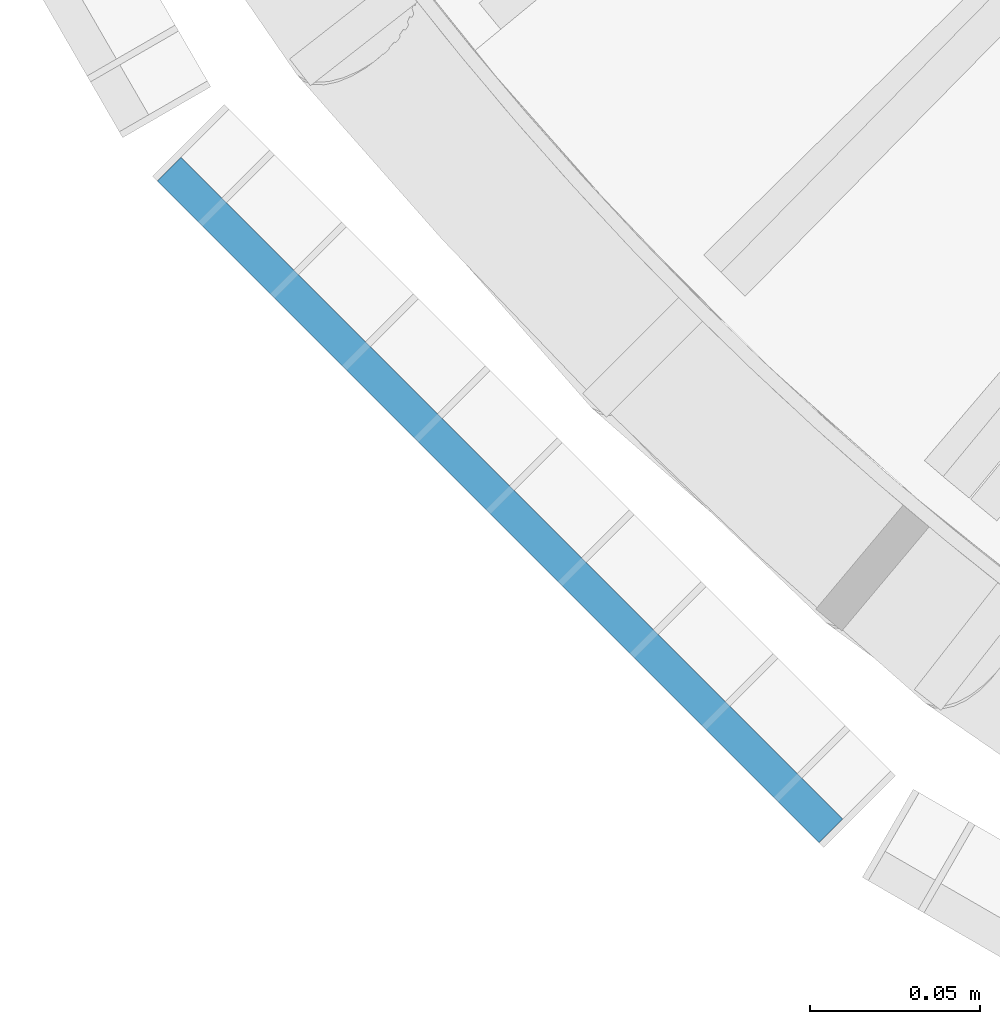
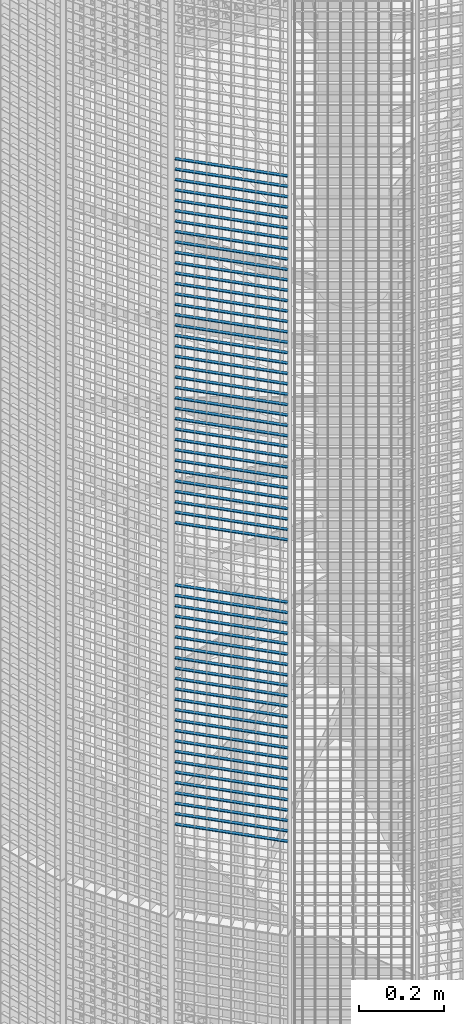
# One storey, part 344 of 1148: 60 beams, 1 element without a shape of its own.
"""IFC2X3 building model written with IfcOpenShell, lengths in millimetres."""

from ifc_helpers import new_model, si_unit, frame, origin_with_axes, origin_2d_with_axis, place, context, subcontext, project, spatial, rectangle, extrude, material, type_object, element, aggregate, save


model = new_model("IFC2X3")

# Units and contexts
model_context = context("Model", 3, precision=1e-05, world=origin_with_axes())
body_context = subcontext(model_context, "Body", "Model", "MODEL_VIEW")
ifc_project = project(units=[si_unit("LENGTHUNIT", "METRE", prefix="MILLI"), si_unit("AREAUNIT", "SQUARE_METRE"), si_unit("VOLUMEUNIT", "CUBIC_METRE"), si_unit("MASSUNIT", "GRAM", prefix="KILO"), si_unit("TIMEUNIT", "SECOND"), si_unit("PLANEANGLEUNIT", "RADIAN"), si_unit("SOLIDANGLEUNIT", "STERADIAN"), si_unit("THERMODYNAMICTEMPERATUREUNIT", "DEGREE_CELSIUS"), si_unit("LUMINOUSINTENSITYUNIT", "LUMEN")], contexts=[model_context])

# Site, building, storey
site_placement = place(None, origin_with_axes())
site = spatial("IfcSite", under=ifc_project, at=site_placement, Name="Undefined", CompositionType="ELEMENT")
building_placement = place(site_placement, origin_with_axes())
building = spatial("IfcBuilding", under=site, at=building_placement, Name="Undefined", CompositionType="ELEMENT")
storey_placement = place(building_placement, origin_with_axes())
storey = spatial("IfcBuildingStorey", under=building, at=storey_placement, Name="Undefined", CompositionType="ELEMENT", Elevation=0.0)

# Assembly, beams
assembly_placement = place(storey_placement, origin_with_axes())
assembly = element("IfcElementAssembly", 1, at=assembly_placement, inside=storey, Name="BORDURE", AssemblyPlace="NOTDEFINED", PredefinedType="NOTDEFINED")
ifc_material = material(Name="STEEL/S235JR")
beam_type = type_object("IfcBeamType", Name="PL2*10", PredefinedType="NOTDEFINED")
beam_1_placement = place(assembly_placement, frame((20910.2286510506, -884.927168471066, 11190.0), z_axis=(-0.70710678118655, -0.707106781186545, 0.0), x_axis=(-0.707106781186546, 0.707106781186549, 0.0)))
beam_1 = element("IfcBeam", 2, at=beam_1_placement, type_object=beam_type, material=ifc_material, Name="ENTRETOISE", context=body_context, shape_type="SweptSolid", body=[
    extrude(rectangle(XDim=2.0, YDim=10.0, at=origin_2d_with_axis()), frame((275.999999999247, 9.09494701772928e-13, 1.53210777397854e-14), z_axis=(-1.0, 0.0, 0.0), x_axis=(0.0, -1.0, 0.0)), (0.0, 0.0, 1.0), 276.0),
])
beam_2_placement = place(assembly_placement, frame((20910.2286510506, -884.927168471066, 11160.0), z_axis=(-0.70710678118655, -0.707106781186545, 0.0), x_axis=(-0.707106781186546, 0.707106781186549, 0.0)))
beam_2 = element("IfcBeam", 3, at=beam_2_placement, type_object=beam_type, material=ifc_material, Name="ENTRETOISE", context=body_context, shape_type="SweptSolid", body=[
    extrude(rectangle(XDim=2.0, YDim=10.0, at=origin_2d_with_axis()), frame((275.999999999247, 9.09494701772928e-13, 1.53210777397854e-14), z_axis=(-1.0, 0.0, 0.0), x_axis=(0.0, -1.0, 0.0)), (0.0, 0.0, 1.0), 276.0),
])
beam_3_placement = place(assembly_placement, frame((20910.2286510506, -884.927168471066, 11130.0), z_axis=(-0.70710678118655, -0.707106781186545, 0.0), x_axis=(-0.707106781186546, 0.707106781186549, 0.0)))
beam_3 = element("IfcBeam", 4, at=beam_3_placement, type_object=beam_type, material=ifc_material, Name="ENTRETOISE", context=body_context, shape_type="SweptSolid", body=[
    extrude(rectangle(XDim=2.0, YDim=10.0, at=origin_2d_with_axis()), frame((275.999999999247, 9.09494701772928e-13, 1.53210777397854e-14), z_axis=(-1.0, 0.0, 0.0), x_axis=(0.0, -1.0, 0.0)), (0.0, 0.0, 1.0), 276.0),
])
beam_4_placement = place(assembly_placement, frame((20910.2286510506, -884.927168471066, 11100.0), z_axis=(-0.70710678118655, -0.707106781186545, 0.0), x_axis=(-0.707106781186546, 0.707106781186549, 0.0)))
beam_4 = element("IfcBeam", 5, at=beam_4_placement, type_object=beam_type, material=ifc_material, Name="ENTRETOISE", context=body_context, shape_type="SweptSolid", body=[
    extrude(rectangle(XDim=2.0, YDim=10.0, at=origin_2d_with_axis()), frame((275.999999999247, 9.09494701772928e-13, 1.53210777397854e-14), z_axis=(-1.0, 0.0, 0.0), x_axis=(0.0, -1.0, 0.0)), (0.0, 0.0, 1.0), 276.0),
])
beam_5_placement = place(assembly_placement, frame((20910.2286510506, -884.927168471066, 11070.0), z_axis=(-0.70710678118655, -0.707106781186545, 0.0), x_axis=(-0.707106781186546, 0.707106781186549, 0.0)))
beam_5 = element("IfcBeam", 6, at=beam_5_placement, type_object=beam_type, material=ifc_material, Name="ENTRETOISE", context=body_context, shape_type="SweptSolid", body=[
    extrude(rectangle(XDim=2.0, YDim=10.0, at=origin_2d_with_axis()), frame((275.999999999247, 9.09494701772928e-13, 1.53210777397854e-14), z_axis=(-1.0, 0.0, 0.0), x_axis=(0.0, -1.0, 0.0)), (0.0, 0.0, 1.0), 276.0),
])
beam_6_placement = place(assembly_placement, frame((20910.2286510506, -884.927168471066, 11040.0), z_axis=(-0.70710678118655, -0.707106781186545, 0.0), x_axis=(-0.707106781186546, 0.707106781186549, 0.0)))
beam_6 = element("IfcBeam", 7, at=beam_6_placement, type_object=beam_type, material=ifc_material, Name="ENTRETOISE", context=body_context, shape_type="SweptSolid", body=[
    extrude(rectangle(XDim=2.0, YDim=10.0, at=origin_2d_with_axis()), frame((275.999999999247, 9.09494701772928e-13, 1.53210777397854e-14), z_axis=(-1.0, 0.0, 0.0), x_axis=(0.0, -1.0, 0.0)), (0.0, 0.0, 1.0), 276.0),
])
beam_7_placement = place(assembly_placement, frame((20910.2286510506, -884.927168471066, 11010.0), z_axis=(-0.70710678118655, -0.707106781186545, 0.0), x_axis=(-0.707106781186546, 0.707106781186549, 0.0)))
beam_7 = element("IfcBeam", 8, at=beam_7_placement, type_object=beam_type, material=ifc_material, Name="ENTRETOISE", context=body_context, shape_type="SweptSolid", body=[
    extrude(rectangle(XDim=2.0, YDim=10.0, at=origin_2d_with_axis()), frame((275.999999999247, 9.09494701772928e-13, 1.53210777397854e-14), z_axis=(-1.0, 0.0, 0.0), x_axis=(0.0, -1.0, 0.0)), (0.0, 0.0, 1.0), 276.0),
])
beam_8_placement = place(assembly_placement, frame((20910.2286510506, -884.927168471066, 10980.0), z_axis=(-0.70710678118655, -0.707106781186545, 0.0), x_axis=(-0.707106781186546, 0.707106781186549, 0.0)))
beam_8 = element("IfcBeam", 9, at=beam_8_placement, type_object=beam_type, material=ifc_material, Name="ENTRETOISE", context=body_context, shape_type="SweptSolid", body=[
    extrude(rectangle(XDim=2.0, YDim=10.0, at=origin_2d_with_axis()), frame((275.999999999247, 9.09494701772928e-13, 1.53210777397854e-14), z_axis=(-1.0, 0.0, 0.0), x_axis=(0.0, -1.0, 0.0)), (0.0, 0.0, 1.0), 276.0),
])
beam_9_placement = place(assembly_placement, frame((20910.2286510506, -884.927168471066, 10950.0), z_axis=(-0.70710678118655, -0.707106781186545, 0.0), x_axis=(-0.707106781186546, 0.707106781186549, 0.0)))
beam_9 = element("IfcBeam", 10, at=beam_9_placement, type_object=beam_type, material=ifc_material, Name="ENTRETOISE", context=body_context, shape_type="SweptSolid", body=[
    extrude(rectangle(XDim=2.0, YDim=10.0, at=origin_2d_with_axis()), frame((275.999999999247, 9.09494701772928e-13, 1.53210777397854e-14), z_axis=(-1.0, 0.0, 0.0), x_axis=(0.0, -1.0, 0.0)), (0.0, 0.0, 1.0), 276.0),
])
beam_10_placement = place(assembly_placement, frame((20910.2286510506, -884.927168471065, 10920.0), z_axis=(-0.70710678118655, -0.707106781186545, 0.0), x_axis=(-0.707106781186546, 0.707106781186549, 0.0)))
beam_10 = element("IfcBeam", 11, at=beam_10_placement, type_object=beam_type, material=ifc_material, Name="ENTRETOISE", context=body_context, shape_type="SweptSolid", body=[
    extrude(rectangle(XDim=2.0, YDim=10.0, at=origin_2d_with_axis()), frame((275.999999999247, 9.09494701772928e-13, 1.53210777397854e-14), z_axis=(-1.0, 0.0, 0.0), x_axis=(0.0, -1.0, 0.0)), (0.0, 0.0, 1.0), 276.0),
])
beam_11_placement = place(assembly_placement, frame((20910.2286510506, -884.927168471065, 10890.0), z_axis=(-0.70710678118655, -0.707106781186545, 0.0), x_axis=(-0.707106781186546, 0.707106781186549, 0.0)))
beam_11 = element("IfcBeam", 12, at=beam_11_placement, type_object=beam_type, material=ifc_material, Name="ENTRETOISE", context=body_context, shape_type="SweptSolid", body=[
    extrude(rectangle(XDim=2.0, YDim=10.0, at=origin_2d_with_axis()), frame((275.999999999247, 9.09494701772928e-13, 1.53210777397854e-14), z_axis=(-1.0, 0.0, 0.0), x_axis=(0.0, -1.0, 0.0)), (0.0, 0.0, 1.0), 276.0),
])
beam_12_placement = place(assembly_placement, frame((20910.2286510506, -884.927168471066, 10860.0), z_axis=(-0.70710678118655, -0.707106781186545, 0.0), x_axis=(-0.707106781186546, 0.707106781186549, 0.0)))
beam_12 = element("IfcBeam", 13, at=beam_12_placement, type_object=beam_type, material=ifc_material, Name="ENTRETOISE", context=body_context, shape_type="SweptSolid", body=[
    extrude(rectangle(XDim=2.0, YDim=10.0, at=origin_2d_with_axis()), frame((275.999999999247, 9.09494701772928e-13, 1.53210777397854e-14), z_axis=(-1.0, 0.0, 0.0), x_axis=(0.0, -1.0, 0.0)), (0.0, 0.0, 1.0), 276.0),
])
beam_13_placement = place(assembly_placement, frame((20910.2286510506, -884.927168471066, 10830.0), z_axis=(-0.70710678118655, -0.707106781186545, 0.0), x_axis=(-0.707106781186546, 0.707106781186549, 0.0)))
beam_13 = element("IfcBeam", 14, at=beam_13_placement, type_object=beam_type, material=ifc_material, Name="ENTRETOISE", context=body_context, shape_type="SweptSolid", body=[
    extrude(rectangle(XDim=2.0, YDim=10.0, at=origin_2d_with_axis()), frame((275.999999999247, 9.09494701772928e-13, 1.53210777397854e-14), z_axis=(-1.0, 0.0, 0.0), x_axis=(0.0, -1.0, 0.0)), (0.0, 0.0, 1.0), 276.0),
])
beam_14_placement = place(assembly_placement, frame((20910.2286510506, -884.927168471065, 10800.0), z_axis=(-0.70710678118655, -0.707106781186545, 0.0), x_axis=(-0.707106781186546, 0.707106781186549, 0.0)))
beam_14 = element("IfcBeam", 15, at=beam_14_placement, type_object=beam_type, material=ifc_material, Name="ENTRETOISE", context=body_context, shape_type="SweptSolid", body=[
    extrude(rectangle(XDim=2.0, YDim=10.0, at=origin_2d_with_axis()), frame((275.999999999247, 9.09494701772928e-13, 1.53210777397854e-14), z_axis=(-1.0, 0.0, 0.0), x_axis=(0.0, -1.0, 0.0)), (0.0, 0.0, 1.0), 276.0),
])
beam_15_placement = place(assembly_placement, frame((20910.2286510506, -884.927168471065, 10770.0), z_axis=(-0.70710678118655, -0.707106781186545, 0.0), x_axis=(-0.707106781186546, 0.707106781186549, 0.0)))
beam_15 = element("IfcBeam", 16, at=beam_15_placement, type_object=beam_type, material=ifc_material, Name="ENTRETOISE", context=body_context, shape_type="SweptSolid", body=[
    extrude(rectangle(XDim=2.0, YDim=10.0, at=origin_2d_with_axis()), frame((275.999999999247, 9.09494701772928e-13, 1.53210777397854e-14), z_axis=(-1.0, 0.0, 0.0), x_axis=(0.0, -1.0, 0.0)), (0.0, 0.0, 1.0), 276.0),
])
beam_16_placement = place(assembly_placement, frame((20910.2286510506, -884.927168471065, 10740.0), z_axis=(-0.70710678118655, -0.707106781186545, 0.0), x_axis=(-0.707106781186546, 0.707106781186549, 0.0)))
beam_16 = element("IfcBeam", 17, at=beam_16_placement, type_object=beam_type, material=ifc_material, Name="ENTRETOISE", context=body_context, shape_type="SweptSolid", body=[
    extrude(rectangle(XDim=2.0, YDim=10.0, at=origin_2d_with_axis()), frame((275.999999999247, 9.09494701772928e-13, 1.53210777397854e-14), z_axis=(-1.0, 0.0, 0.0), x_axis=(0.0, -1.0, 0.0)), (0.0, 0.0, 1.0), 276.0),
])
beam_17_placement = place(assembly_placement, frame((20910.2286510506, -884.927168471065, 10710.0), z_axis=(-0.70710678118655, -0.707106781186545, 0.0), x_axis=(-0.707106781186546, 0.707106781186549, 0.0)))
beam_17 = element("IfcBeam", 18, at=beam_17_placement, type_object=beam_type, material=ifc_material, Name="ENTRETOISE", context=body_context, shape_type="SweptSolid", body=[
    extrude(rectangle(XDim=2.0, YDim=10.0, at=origin_2d_with_axis()), frame((275.999999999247, 9.09494701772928e-13, 1.53210777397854e-14), z_axis=(-1.0, 0.0, 0.0), x_axis=(0.0, -1.0, 0.0)), (0.0, 0.0, 1.0), 276.0),
])
beam_18_placement = place(assembly_placement, frame((20910.2286510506, -884.927168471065, 10680.0), z_axis=(-0.70710678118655, -0.707106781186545, 0.0), x_axis=(-0.707106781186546, 0.707106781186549, 0.0)))
beam_18 = element("IfcBeam", 19, at=beam_18_placement, type_object=beam_type, material=ifc_material, Name="ENTRETOISE", context=body_context, shape_type="SweptSolid", body=[
    extrude(rectangle(XDim=2.0, YDim=10.0, at=origin_2d_with_axis()), frame((275.999999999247, 9.09494701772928e-13, 1.53210777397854e-14), z_axis=(-1.0, 0.0, 0.0), x_axis=(0.0, -1.0, 0.0)), (0.0, 0.0, 1.0), 276.0),
])
beam_19_placement = place(assembly_placement, frame((20910.2286510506, -884.927168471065, 10650.0), z_axis=(-0.70710678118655, -0.707106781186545, 0.0), x_axis=(-0.707106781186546, 0.707106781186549, 0.0)))
beam_19 = element("IfcBeam", 20, at=beam_19_placement, type_object=beam_type, material=ifc_material, Name="ENTRETOISE", context=body_context, shape_type="SweptSolid", body=[
    extrude(rectangle(XDim=2.0, YDim=10.0, at=origin_2d_with_axis()), frame((275.999999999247, 9.09494701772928e-13, 1.53210777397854e-14), z_axis=(-1.0, 0.0, 0.0), x_axis=(0.0, -1.0, 0.0)), (0.0, 0.0, 1.0), 276.0),
])
beam_20_placement = place(assembly_placement, frame((20910.2286510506, -884.927168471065, 10620.0), z_axis=(-0.70710678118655, -0.707106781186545, 0.0), x_axis=(-0.707106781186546, 0.707106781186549, 0.0)))
beam_20 = element("IfcBeam", 21, at=beam_20_placement, type_object=beam_type, material=ifc_material, Name="ENTRETOISE", context=body_context, shape_type="SweptSolid", body=[
    extrude(rectangle(XDim=2.0, YDim=10.0, at=origin_2d_with_axis()), frame((275.999999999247, 9.09494701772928e-13, 1.53210777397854e-14), z_axis=(-1.0, 0.0, 0.0), x_axis=(0.0, -1.0, 0.0)), (0.0, 0.0, 1.0), 276.0),
])
beam_21_placement = place(assembly_placement, frame((20910.2286510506, -884.927168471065, 10590.0), z_axis=(-0.70710678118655, -0.707106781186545, 0.0), x_axis=(-0.707106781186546, 0.707106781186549, 0.0)))
beam_21 = element("IfcBeam", 22, at=beam_21_placement, type_object=beam_type, material=ifc_material, Name="ENTRETOISE", context=body_context, shape_type="SweptSolid", body=[
    extrude(rectangle(XDim=2.0, YDim=10.0, at=origin_2d_with_axis()), frame((275.999999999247, 9.09494701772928e-13, 1.53210777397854e-14), z_axis=(-1.0, 0.0, 0.0), x_axis=(0.0, -1.0, 0.0)), (0.0, 0.0, 1.0), 276.0),
])
beam_22_placement = place(assembly_placement, frame((20910.2286510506, -884.927168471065, 10560.0), z_axis=(-0.70710678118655, -0.707106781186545, 0.0), x_axis=(-0.707106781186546, 0.707106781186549, 0.0)))
beam_22 = element("IfcBeam", 23, at=beam_22_placement, type_object=beam_type, material=ifc_material, Name="ENTRETOISE", context=body_context, shape_type="SweptSolid", body=[
    extrude(rectangle(XDim=2.0, YDim=10.0, at=origin_2d_with_axis()), frame((275.999999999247, 9.09494701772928e-13, 1.53210777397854e-14), z_axis=(-1.0, 0.0, 0.0), x_axis=(0.0, -1.0, 0.0)), (0.0, 0.0, 1.0), 276.0),
])
beam_23_placement = place(assembly_placement, frame((20910.2286510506, -884.927168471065, 10530.0), z_axis=(-0.70710678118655, -0.707106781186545, 0.0), x_axis=(-0.707106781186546, 0.707106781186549, 0.0)))
beam_23 = element("IfcBeam", 24, at=beam_23_placement, type_object=beam_type, material=ifc_material, Name="ENTRETOISE", context=body_context, shape_type="SweptSolid", body=[
    extrude(rectangle(XDim=2.0, YDim=10.0, at=origin_2d_with_axis()), frame((275.999999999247, 9.09494701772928e-13, 1.53210777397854e-14), z_axis=(-1.0, 0.0, 0.0), x_axis=(0.0, -1.0, 0.0)), (0.0, 0.0, 1.0), 276.0),
])
beam_24_placement = place(assembly_placement, frame((20910.2286510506, -884.927168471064, 10500.0), z_axis=(-0.70710678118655, -0.707106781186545, 0.0), x_axis=(-0.707106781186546, 0.707106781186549, 0.0)))
beam_24 = element("IfcBeam", 25, at=beam_24_placement, type_object=beam_type, material=ifc_material, Name="ENTRETOISE", context=body_context, shape_type="SweptSolid", body=[
    extrude(rectangle(XDim=2.0, YDim=10.0, at=origin_2d_with_axis()), frame((275.999999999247, 9.09494701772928e-13, 1.53210777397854e-14), z_axis=(-1.0, 0.0, 0.0), x_axis=(0.0, -1.0, 0.0)), (0.0, 0.0, 1.0), 276.0),
])
beam_25_placement = place(assembly_placement, frame((20910.2286510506, -884.927168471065, 10470.0), z_axis=(-0.70710678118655, -0.707106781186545, 0.0), x_axis=(-0.707106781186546, 0.707106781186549, 0.0)))
beam_25 = element("IfcBeam", 26, at=beam_25_placement, type_object=beam_type, material=ifc_material, Name="ENTRETOISE", context=body_context, shape_type="SweptSolid", body=[
    extrude(rectangle(XDim=2.0, YDim=10.0, at=origin_2d_with_axis()), frame((275.999999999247, 9.09494701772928e-13, 1.53210777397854e-14), z_axis=(-1.0, 0.0, 0.0), x_axis=(0.0, -1.0, 0.0)), (0.0, 0.0, 1.0), 276.0),
])
beam_26_placement = place(assembly_placement, frame((20910.2286510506, -884.927168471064, 10440.0), z_axis=(-0.70710678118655, -0.707106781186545, 0.0), x_axis=(-0.707106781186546, 0.707106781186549, 0.0)))
beam_26 = element("IfcBeam", 27, at=beam_26_placement, type_object=beam_type, material=ifc_material, Name="ENTRETOISE", context=body_context, shape_type="SweptSolid", body=[
    extrude(rectangle(XDim=2.0, YDim=10.0, at=origin_2d_with_axis()), frame((275.999999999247, 9.09494701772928e-13, 1.53210777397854e-14), z_axis=(-1.0, 0.0, 0.0), x_axis=(0.0, -1.0, 0.0)), (0.0, 0.0, 1.0), 276.0),
])
beam_27_placement = place(assembly_placement, frame((20910.2286510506, -884.927168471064, 10410.0), z_axis=(-0.70710678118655, -0.707106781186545, 0.0), x_axis=(-0.707106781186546, 0.707106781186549, 0.0)))
beam_27 = element("IfcBeam", 28, at=beam_27_placement, type_object=beam_type, material=ifc_material, Name="ENTRETOISE", context=body_context, shape_type="SweptSolid", body=[
    extrude(rectangle(XDim=2.0, YDim=10.0, at=origin_2d_with_axis()), frame((275.999999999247, 9.09494701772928e-13, 1.53210777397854e-14), z_axis=(-1.0, 0.0, 0.0), x_axis=(0.0, -1.0, 0.0)), (0.0, 0.0, 1.0), 276.0),
])
beam_28_placement = place(assembly_placement, frame((20910.2286510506, -884.927168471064, 10380.0), z_axis=(-0.70710678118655, -0.707106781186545, 0.0), x_axis=(-0.707106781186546, 0.707106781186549, 0.0)))
beam_28 = element("IfcBeam", 29, at=beam_28_placement, type_object=beam_type, material=ifc_material, Name="ENTRETOISE", context=body_context, shape_type="SweptSolid", body=[
    extrude(rectangle(XDim=2.0, YDim=10.0, at=origin_2d_with_axis()), frame((275.999999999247, 9.09494701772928e-13, 1.53210777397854e-14), z_axis=(-1.0, 0.0, 0.0), x_axis=(0.0, -1.0, 0.0)), (0.0, 0.0, 1.0), 276.0),
])
beam_29_placement = place(assembly_placement, frame((20910.2286510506, -884.927168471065, 10350.0), z_axis=(-0.70710678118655, -0.707106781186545, 0.0), x_axis=(-0.707106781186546, 0.707106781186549, 0.0)))
beam_29 = element("IfcBeam", 30, at=beam_29_placement, type_object=beam_type, material=ifc_material, Name="ENTRETOISE", context=body_context, shape_type="SweptSolid", body=[
    extrude(rectangle(XDim=2.0, YDim=10.0, at=origin_2d_with_axis()), frame((275.999999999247, 9.09494701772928e-13, 1.53210777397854e-14), z_axis=(-1.0, 0.0, 0.0), x_axis=(0.0, -1.0, 0.0)), (0.0, 0.0, 1.0), 276.0),
])
beam_30_placement = place(assembly_placement, frame((20910.2286510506, -884.927168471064, 10320.0), z_axis=(-0.70710678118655, -0.707106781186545, 0.0), x_axis=(-0.707106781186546, 0.707106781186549, 0.0)))
beam_30 = element("IfcBeam", 31, at=beam_30_placement, type_object=beam_type, material=ifc_material, Name="ENTRETOISE", context=body_context, shape_type="SweptSolid", body=[
    extrude(rectangle(XDim=2.0, YDim=10.0, at=origin_2d_with_axis()), frame((275.999999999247, 9.09494701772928e-13, 1.53210777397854e-14), z_axis=(-1.0, 0.0, 0.0), x_axis=(0.0, -1.0, 0.0)), (0.0, 0.0, 1.0), 276.0),
])
beam_31_placement = place(assembly_placement, frame((20910.2286510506, -884.927168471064, 10290.0), z_axis=(-0.70710678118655, -0.707106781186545, 0.0), x_axis=(-0.707106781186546, 0.707106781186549, 0.0)))
beam_31 = element("IfcBeam", 32, at=beam_31_placement, type_object=beam_type, material=ifc_material, Name="ENTRETOISE", context=body_context, shape_type="SweptSolid", body=[
    extrude(rectangle(XDim=2.0, YDim=10.0, at=origin_2d_with_axis()), frame((275.999999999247, 9.09494701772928e-13, 1.53210777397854e-14), z_axis=(-1.0, 0.0, 0.0), x_axis=(0.0, -1.0, 0.0)), (0.0, 0.0, 1.0), 276.0),
])
beam_32_placement = place(assembly_placement, frame((20910.2286510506, -884.927168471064, 10260.0), z_axis=(-0.70710678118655, -0.707106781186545, 0.0), x_axis=(-0.707106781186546, 0.707106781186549, 0.0)))
beam_32 = element("IfcBeam", 33, at=beam_32_placement, type_object=beam_type, material=ifc_material, Name="ENTRETOISE", context=body_context, shape_type="SweptSolid", body=[
    extrude(rectangle(XDim=2.0, YDim=10.0, at=origin_2d_with_axis()), frame((275.999999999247, 9.09494701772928e-13, 1.53210777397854e-14), z_axis=(-1.0, 0.0, 0.0), x_axis=(0.0, -1.0, 0.0)), (0.0, 0.0, 1.0), 276.0),
])
beam_33_placement = place(assembly_placement, frame((20910.2286510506, -884.927168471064, 10230.0), z_axis=(-0.70710678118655, -0.707106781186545, 0.0), x_axis=(-0.707106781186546, 0.707106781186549, 0.0)))
beam_33 = element("IfcBeam", 34, at=beam_33_placement, type_object=beam_type, material=ifc_material, Name="ENTRETOISE", context=body_context, shape_type="SweptSolid", body=[
    extrude(rectangle(XDim=2.0, YDim=10.0, at=origin_2d_with_axis()), frame((275.999999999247, 9.09494701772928e-13, 1.53210777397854e-14), z_axis=(-1.0, 0.0, 0.0), x_axis=(0.0, -1.0, 0.0)), (0.0, 0.0, 1.0), 276.0),
])
beam_34_placement = place(assembly_placement, frame((20910.2286510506, -884.927168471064, 10200.0), z_axis=(-0.70710678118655, -0.707106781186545, 0.0), x_axis=(-0.707106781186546, 0.707106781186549, 0.0)))
beam_34 = element("IfcBeam", 35, at=beam_34_placement, type_object=beam_type, material=ifc_material, Name="ENTRETOISE", context=body_context, shape_type="SweptSolid", body=[
    extrude(rectangle(XDim=2.0, YDim=10.0, at=origin_2d_with_axis()), frame((275.999999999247, 9.09494701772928e-13, 1.53210777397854e-14), z_axis=(-1.0, 0.0, 0.0), x_axis=(0.0, -1.0, 0.0)), (0.0, 0.0, 1.0), 276.0),
])
beam_35_placement = place(assembly_placement, frame((20910.2286510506, -884.927168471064, 10170.0), z_axis=(-0.70710678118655, -0.707106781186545, 0.0), x_axis=(-0.707106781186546, 0.707106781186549, 0.0)))
beam_35 = element("IfcBeam", 36, at=beam_35_placement, type_object=beam_type, material=ifc_material, Name="ENTRETOISE", context=body_context, shape_type="SweptSolid", body=[
    extrude(rectangle(XDim=2.0, YDim=10.0, at=origin_2d_with_axis()), frame((275.999999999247, 9.09494701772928e-13, 1.53210777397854e-14), z_axis=(-1.0, 0.0, 0.0), x_axis=(0.0, -1.0, 0.0)), (0.0, 0.0, 1.0), 276.0),
])
beam_36_placement = place(assembly_placement, frame((20910.2286510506, -884.927168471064, 10140.0), z_axis=(-0.70710678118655, -0.707106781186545, 0.0), x_axis=(-0.707106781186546, 0.707106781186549, 0.0)))
beam_36 = element("IfcBeam", 37, at=beam_36_placement, type_object=beam_type, material=ifc_material, Name="ENTRETOISE", context=body_context, shape_type="SweptSolid", body=[
    extrude(rectangle(XDim=2.0, YDim=10.0, at=origin_2d_with_axis()), frame((275.999999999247, 9.09494701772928e-13, 1.53210777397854e-14), z_axis=(-1.0, 0.0, 0.0), x_axis=(0.0, -1.0, 0.0)), (0.0, 0.0, 1.0), 276.0),
])
beam_37_placement = place(assembly_placement, frame((20910.2286510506, -884.927168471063, 9720.0), z_axis=(-0.70710678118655, -0.707106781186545, 0.0), x_axis=(-0.707106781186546, 0.707106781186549, 0.0)))
beam_37 = element("IfcBeam", 38, at=beam_37_placement, type_object=beam_type, material=ifc_material, Name="ENTRETOISE", context=body_context, shape_type="SweptSolid", body=[
    extrude(rectangle(XDim=2.0, YDim=10.0, at=origin_2d_with_axis()), frame((275.999999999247, 9.09494701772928e-13, 1.53210777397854e-14), z_axis=(-1.0, 0.0, 0.0), x_axis=(0.0, -1.0, 0.0)), (0.0, 0.0, 1.0), 276.0),
])
beam_38_placement = place(assembly_placement, frame((20910.2286510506, -884.927168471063, 9690.0), z_axis=(-0.70710678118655, -0.707106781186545, 0.0), x_axis=(-0.707106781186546, 0.707106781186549, 0.0)))
beam_38 = element("IfcBeam", 39, at=beam_38_placement, type_object=beam_type, material=ifc_material, Name="ENTRETOISE", context=body_context, shape_type="SweptSolid", body=[
    extrude(rectangle(XDim=2.0, YDim=10.0, at=origin_2d_with_axis()), frame((275.999999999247, 9.09494701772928e-13, 1.53210777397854e-14), z_axis=(-1.0, 0.0, 0.0), x_axis=(0.0, -1.0, 0.0)), (0.0, 0.0, 1.0), 276.0),
])
beam_39_placement = place(assembly_placement, frame((20910.2286510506, -884.927168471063, 9750.0), z_axis=(-0.70710678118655, -0.707106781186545, 0.0), x_axis=(-0.707106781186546, 0.707106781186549, 0.0)))
beam_39 = element("IfcBeam", 40, at=beam_39_placement, type_object=beam_type, material=ifc_material, Name="ENTRETOISE", context=body_context, shape_type="SweptSolid", body=[
    extrude(rectangle(XDim=2.0, YDim=10.0, at=origin_2d_with_axis()), frame((275.999999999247, 9.09494701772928e-13, 1.53210777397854e-14), z_axis=(-1.0, 0.0, 0.0), x_axis=(0.0, -1.0, 0.0)), (0.0, 0.0, 1.0), 276.0),
])
beam_40_placement = place(assembly_placement, frame((20910.2286510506, -884.927168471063, 9660.0), z_axis=(-0.70710678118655, -0.707106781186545, 0.0), x_axis=(-0.707106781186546, 0.707106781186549, 0.0)))
beam_40 = element("IfcBeam", 41, at=beam_40_placement, type_object=beam_type, material=ifc_material, Name="ENTRETOISE", context=body_context, shape_type="SweptSolid", body=[
    extrude(rectangle(XDim=2.0, YDim=10.0, at=origin_2d_with_axis()), frame((275.999999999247, 9.09494701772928e-13, 1.53210777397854e-14), z_axis=(-1.0, 0.0, 0.0), x_axis=(0.0, -1.0, 0.0)), (0.0, 0.0, 1.0), 276.0),
])
beam_41_placement = place(assembly_placement, frame((20910.2286510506, -884.927168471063, 9630.0), z_axis=(-0.70710678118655, -0.707106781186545, 0.0), x_axis=(-0.707106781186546, 0.707106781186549, 0.0)))
beam_41 = element("IfcBeam", 42, at=beam_41_placement, type_object=beam_type, material=ifc_material, Name="ENTRETOISE", context=body_context, shape_type="SweptSolid", body=[
    extrude(rectangle(XDim=2.0, YDim=10.0, at=origin_2d_with_axis()), frame((275.999999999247, 9.09494701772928e-13, 1.53210777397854e-14), z_axis=(-1.0, 0.0, 0.0), x_axis=(0.0, -1.0, 0.0)), (0.0, 0.0, 1.0), 276.0),
])
beam_42_placement = place(assembly_placement, frame((20910.2286510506, -884.927168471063, 9780.0), z_axis=(-0.70710678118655, -0.707106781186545, 0.0), x_axis=(-0.707106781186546, 0.707106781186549, 0.0)))
beam_42 = element("IfcBeam", 43, at=beam_42_placement, type_object=beam_type, material=ifc_material, Name="ENTRETOISE", context=body_context, shape_type="SweptSolid", body=[
    extrude(rectangle(XDim=2.0, YDim=10.0, at=origin_2d_with_axis()), frame((275.999999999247, 9.09494701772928e-13, 1.53210777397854e-14), z_axis=(-1.0, 0.0, 0.0), x_axis=(0.0, -1.0, 0.0)), (0.0, 0.0, 1.0), 276.0),
])
beam_43_placement = place(assembly_placement, frame((20910.2286510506, -884.927168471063, 9600.0), z_axis=(-0.70710678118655, -0.707106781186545, 0.0), x_axis=(-0.707106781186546, 0.707106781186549, 0.0)))
beam_43 = element("IfcBeam", 44, at=beam_43_placement, type_object=beam_type, material=ifc_material, Name="ENTRETOISE", context=body_context, shape_type="SweptSolid", body=[
    extrude(rectangle(XDim=2.0, YDim=10.0, at=origin_2d_with_axis()), frame((275.999999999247, 9.09494701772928e-13, 1.53210777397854e-14), z_axis=(-1.0, 0.0, 0.0), x_axis=(0.0, -1.0, 0.0)), (0.0, 0.0, 1.0), 276.0),
])
beam_44_placement = place(assembly_placement, frame((20910.2286510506, -884.927168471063, 9810.0), z_axis=(-0.70710678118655, -0.707106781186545, 0.0), x_axis=(-0.707106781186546, 0.707106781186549, 0.0)))
beam_44 = element("IfcBeam", 45, at=beam_44_placement, type_object=beam_type, material=ifc_material, Name="ENTRETOISE", context=body_context, shape_type="SweptSolid", body=[
    extrude(rectangle(XDim=2.0, YDim=10.0, at=origin_2d_with_axis()), frame((275.999999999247, 9.09494701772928e-13, 1.53210777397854e-14), z_axis=(-1.0, 0.0, 0.0), x_axis=(0.0, -1.0, 0.0)), (0.0, 0.0, 1.0), 276.0),
])
beam_45_placement = place(assembly_placement, frame((20910.2286510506, -884.927168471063, 9570.0), z_axis=(-0.70710678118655, -0.707106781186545, 0.0), x_axis=(-0.707106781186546, 0.707106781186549, 0.0)))
beam_45 = element("IfcBeam", 46, at=beam_45_placement, type_object=beam_type, material=ifc_material, Name="ENTRETOISE", context=body_context, shape_type="SweptSolid", body=[
    extrude(rectangle(XDim=2.0, YDim=10.0, at=origin_2d_with_axis()), frame((275.999999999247, 9.09494701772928e-13, 1.53210777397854e-14), z_axis=(-1.0, 0.0, 0.0), x_axis=(0.0, -1.0, 0.0)), (0.0, 0.0, 1.0), 276.0),
])
beam_46_placement = place(assembly_placement, frame((20910.2286510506, -884.927168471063, 9540.0), z_axis=(-0.70710678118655, -0.707106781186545, 0.0), x_axis=(-0.707106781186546, 0.707106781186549, 0.0)))
beam_46 = element("IfcBeam", 47, at=beam_46_placement, type_object=beam_type, material=ifc_material, Name="ENTRETOISE", context=body_context, shape_type="SweptSolid", body=[
    extrude(rectangle(XDim=2.0, YDim=10.0, at=origin_2d_with_axis()), frame((275.999999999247, 9.09494701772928e-13, 1.53210777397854e-14), z_axis=(-1.0, 0.0, 0.0), x_axis=(0.0, -1.0, 0.0)), (0.0, 0.0, 1.0), 276.0),
])
beam_47_placement = place(assembly_placement, frame((20910.2286510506, -884.927168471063, 9840.0), z_axis=(-0.70710678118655, -0.707106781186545, 0.0), x_axis=(-0.707106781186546, 0.707106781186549, 0.0)))
beam_47 = element("IfcBeam", 48, at=beam_47_placement, type_object=beam_type, material=ifc_material, Name="ENTRETOISE", context=body_context, shape_type="SweptSolid", body=[
    extrude(rectangle(XDim=2.0, YDim=10.0, at=origin_2d_with_axis()), frame((275.999999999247, 9.09494701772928e-13, 1.53210777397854e-14), z_axis=(-1.0, 0.0, 0.0), x_axis=(0.0, -1.0, 0.0)), (0.0, 0.0, 1.0), 276.0),
])
beam_48_placement = place(assembly_placement, frame((20910.2286510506, -884.927168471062, 9510.0), z_axis=(-0.70710678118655, -0.707106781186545, 0.0), x_axis=(-0.707106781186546, 0.707106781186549, 0.0)))
beam_48 = element("IfcBeam", 49, at=beam_48_placement, type_object=beam_type, material=ifc_material, Name="ENTRETOISE", context=body_context, shape_type="SweptSolid", body=[
    extrude(rectangle(XDim=2.0, YDim=10.0, at=origin_2d_with_axis()), frame((275.999999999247, 9.09494701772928e-13, 1.53210777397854e-14), z_axis=(-1.0, 0.0, 0.0), x_axis=(0.0, -1.0, 0.0)), (0.0, 0.0, 1.0), 276.0),
])
beam_49_placement = place(assembly_placement, frame((20910.2286510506, -884.927168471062, 9480.0), z_axis=(-0.70710678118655, -0.707106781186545, 0.0), x_axis=(-0.707106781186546, 0.707106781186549, 0.0)))
beam_49 = element("IfcBeam", 50, at=beam_49_placement, type_object=beam_type, material=ifc_material, Name="ENTRETOISE", context=body_context, shape_type="SweptSolid", body=[
    extrude(rectangle(XDim=2.0, YDim=10.0, at=origin_2d_with_axis()), frame((275.999999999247, 9.09494701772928e-13, 1.53210777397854e-14), z_axis=(-1.0, 0.0, 0.0), x_axis=(0.0, -1.0, 0.0)), (0.0, 0.0, 1.0), 276.0),
])
beam_50_placement = place(assembly_placement, frame((20910.2286510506, -884.927168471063, 9870.0), z_axis=(-0.70710678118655, -0.707106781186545, 0.0), x_axis=(-0.707106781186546, 0.707106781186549, 0.0)))
beam_50 = element("IfcBeam", 51, at=beam_50_placement, type_object=beam_type, material=ifc_material, Name="ENTRETOISE", context=body_context, shape_type="SweptSolid", body=[
    extrude(rectangle(XDim=2.0, YDim=10.0, at=origin_2d_with_axis()), frame((275.999999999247, 9.09494701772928e-13, 1.53210777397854e-14), z_axis=(-1.0, 0.0, 0.0), x_axis=(0.0, -1.0, 0.0)), (0.0, 0.0, 1.0), 276.0),
])
beam_51_placement = place(assembly_placement, frame((20910.2286510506, -884.927168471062, 9450.0), z_axis=(-0.70710678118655, -0.707106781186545, 0.0), x_axis=(-0.707106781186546, 0.707106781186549, 0.0)))
beam_51 = element("IfcBeam", 52, at=beam_51_placement, type_object=beam_type, material=ifc_material, Name="ENTRETOISE", context=body_context, shape_type="SweptSolid", body=[
    extrude(rectangle(XDim=2.0, YDim=10.0, at=origin_2d_with_axis()), frame((275.999999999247, 9.09494701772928e-13, 1.53210777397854e-14), z_axis=(-1.0, 0.0, 0.0), x_axis=(0.0, -1.0, 0.0)), (0.0, 0.0, 1.0), 276.0),
])
beam_52_placement = place(assembly_placement, frame((20910.2286510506, -884.927168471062, 9420.0), z_axis=(-0.70710678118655, -0.707106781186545, 0.0), x_axis=(-0.707106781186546, 0.707106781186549, 0.0)))
beam_52 = element("IfcBeam", 53, at=beam_52_placement, type_object=beam_type, material=ifc_material, Name="ENTRETOISE", context=body_context, shape_type="SweptSolid", body=[
    extrude(rectangle(XDim=2.0, YDim=10.0, at=origin_2d_with_axis()), frame((275.999999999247, 9.09494701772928e-13, 1.53210777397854e-14), z_axis=(-1.0, 0.0, 0.0), x_axis=(0.0, -1.0, 0.0)), (0.0, 0.0, 1.0), 276.0),
])
beam_53_placement = place(assembly_placement, frame((20910.2286510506, -884.927168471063, 9900.0), z_axis=(-0.70710678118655, -0.707106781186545, 0.0), x_axis=(-0.707106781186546, 0.707106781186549, 0.0)))
beam_53 = element("IfcBeam", 54, at=beam_53_placement, type_object=beam_type, material=ifc_material, Name="ENTRETOISE", context=body_context, shape_type="SweptSolid", body=[
    extrude(rectangle(XDim=2.0, YDim=10.0, at=origin_2d_with_axis()), frame((275.999999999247, 9.09494701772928e-13, 1.53210777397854e-14), z_axis=(-1.0, 0.0, 0.0), x_axis=(0.0, -1.0, 0.0)), (0.0, 0.0, 1.0), 276.0),
])
beam_54_placement = place(assembly_placement, frame((20910.2286510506, -884.927168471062, 9390.0), z_axis=(-0.70710678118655, -0.707106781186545, 0.0), x_axis=(-0.707106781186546, 0.707106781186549, 0.0)))
beam_54 = element("IfcBeam", 55, at=beam_54_placement, type_object=beam_type, material=ifc_material, Name="ENTRETOISE", context=body_context, shape_type="SweptSolid", body=[
    extrude(rectangle(XDim=2.0, YDim=10.0, at=origin_2d_with_axis()), frame((275.999999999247, 9.09494701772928e-13, 1.53210777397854e-14), z_axis=(-1.0, 0.0, 0.0), x_axis=(0.0, -1.0, 0.0)), (0.0, 0.0, 1.0), 276.0),
])
beam_55_placement = place(assembly_placement, frame((20910.2286510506, -884.927168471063, 9930.0), z_axis=(-0.70710678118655, -0.707106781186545, 0.0), x_axis=(-0.707106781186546, 0.707106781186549, 0.0)))
beam_55 = element("IfcBeam", 56, at=beam_55_placement, type_object=beam_type, material=ifc_material, Name="ENTRETOISE", context=body_context, shape_type="SweptSolid", body=[
    extrude(rectangle(XDim=2.0, YDim=10.0, at=origin_2d_with_axis()), frame((275.999999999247, 9.09494701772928e-13, 1.53210777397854e-14), z_axis=(-1.0, 0.0, 0.0), x_axis=(0.0, -1.0, 0.0)), (0.0, 0.0, 1.0), 276.0),
])
beam_56_placement = place(assembly_placement, frame((20910.2286510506, -884.927168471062, 9360.0), z_axis=(-0.70710678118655, -0.707106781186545, 0.0), x_axis=(-0.707106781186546, 0.707106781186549, 0.0)))
beam_56 = element("IfcBeam", 57, at=beam_56_placement, type_object=beam_type, material=ifc_material, Name="ENTRETOISE", context=body_context, shape_type="SweptSolid", body=[
    extrude(rectangle(XDim=2.0, YDim=10.0, at=origin_2d_with_axis()), frame((275.999999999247, 9.09494701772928e-13, 1.53210777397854e-14), z_axis=(-1.0, 0.0, 0.0), x_axis=(0.0, -1.0, 0.0)), (0.0, 0.0, 1.0), 276.0),
])
beam_57_placement = place(assembly_placement, frame((20910.2286510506, -884.927168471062, 9330.0), z_axis=(-0.70710678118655, -0.707106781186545, 0.0), x_axis=(-0.707106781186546, 0.707106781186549, 0.0)))
beam_57 = element("IfcBeam", 58, at=beam_57_placement, type_object=beam_type, material=ifc_material, Name="ENTRETOISE", context=body_context, shape_type="SweptSolid", body=[
    extrude(rectangle(XDim=2.0, YDim=10.0, at=origin_2d_with_axis()), frame((275.999999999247, 9.09494701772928e-13, 1.53210777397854e-14), z_axis=(-1.0, 0.0, 0.0), x_axis=(0.0, -1.0, 0.0)), (0.0, 0.0, 1.0), 276.0),
])
beam_58_placement = place(assembly_placement, frame((20910.2286510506, -884.927168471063, 9960.0), z_axis=(-0.70710678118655, -0.707106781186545, 0.0), x_axis=(-0.707106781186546, 0.707106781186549, 0.0)))
beam_58 = element("IfcBeam", 59, at=beam_58_placement, type_object=beam_type, material=ifc_material, Name="ENTRETOISE", context=body_context, shape_type="SweptSolid", body=[
    extrude(rectangle(XDim=2.0, YDim=10.0, at=origin_2d_with_axis()), frame((275.999999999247, 9.09494701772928e-13, 1.53210777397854e-14), z_axis=(-1.0, 0.0, 0.0), x_axis=(0.0, -1.0, 0.0)), (0.0, 0.0, 1.0), 276.0),
])
beam_59_placement = place(assembly_placement, frame((20910.2286510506, -884.927168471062, 9300.0), z_axis=(-0.70710678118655, -0.707106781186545, 0.0), x_axis=(-0.707106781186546, 0.707106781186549, 0.0)))
beam_59 = element("IfcBeam", 60, at=beam_59_placement, type_object=beam_type, material=ifc_material, Name="ENTRETOISE", context=body_context, shape_type="SweptSolid", body=[
    extrude(rectangle(XDim=2.0, YDim=10.0, at=origin_2d_with_axis()), frame((275.999999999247, 9.09494701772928e-13, 1.53210777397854e-14), z_axis=(-1.0, 0.0, 0.0), x_axis=(0.0, -1.0, 0.0)), (0.0, 0.0, 1.0), 276.0),
])
beam_60_placement = place(assembly_placement, frame((20910.2286510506, -884.927168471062, 9270.0), z_axis=(-0.70710678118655, -0.707106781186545, 0.0), x_axis=(-0.707106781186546, 0.707106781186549, 0.0)))
beam_60 = element("IfcBeam", 61, at=beam_60_placement, type_object=beam_type, material=ifc_material, Name="ENTRETOISE", context=body_context, shape_type="SweptSolid", body=[
    extrude(rectangle(XDim=2.0, YDim=10.0, at=origin_2d_with_axis()), frame((275.999999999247, 9.09494701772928e-13, 1.53210777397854e-14), z_axis=(-1.0, 0.0, 0.0), x_axis=(0.0, -1.0, 0.0)), (0.0, 0.0, 1.0), 276.0),
])
aggregate(assembly, [beam_1, beam_2, beam_3, beam_4, beam_5, beam_6, beam_7, beam_8, beam_9, beam_10, beam_11, beam_12, beam_13, beam_14, beam_15, beam_16, beam_17, beam_18, beam_19, beam_20, beam_21, beam_22, beam_23, beam_24, beam_25, beam_26, beam_27, beam_28, beam_29, beam_30, beam_31, beam_32, beam_33, beam_34, beam_35, beam_36, beam_37, beam_38, beam_39, beam_40, beam_41, beam_42, beam_43, beam_44, beam_45, beam_46, beam_47, beam_48, beam_49, beam_50, beam_51, beam_52, beam_53, beam_54, beam_55, beam_56, beam_57, beam_58, beam_59, beam_60])

save(model, "model.ifc")
